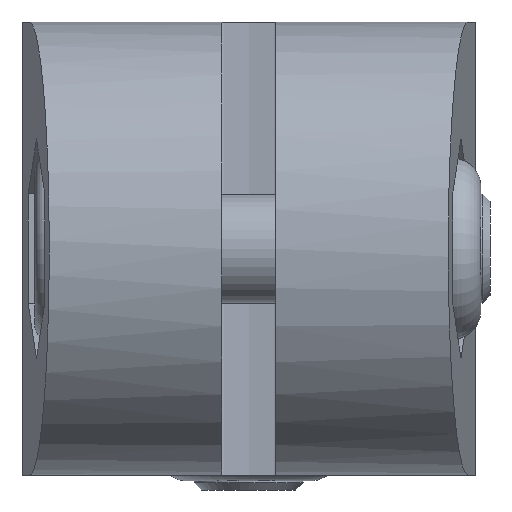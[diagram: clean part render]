
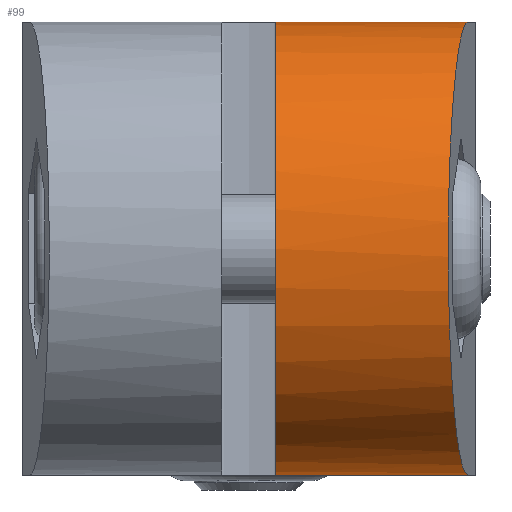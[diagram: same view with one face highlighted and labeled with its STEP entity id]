
A CAD part, left-side view. The second image highlights one B-rep face of the part: STEP entity #99.
In plain terms, the highlighted cylindrical face has radius 12.5 mm (diameter 25 mm), a partial arc.
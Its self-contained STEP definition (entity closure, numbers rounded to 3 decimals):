
#99 = ADVANCED_FACE( '', ( #246 ), #247, .T. );
#246 = FACE_OUTER_BOUND( '', #516, .T. );
#247 = CYLINDRICAL_SURFACE( '', #517, 12.5 );
#516 = EDGE_LOOP( '', ( #921, #922, #923, #924 ) );
#517 = AXIS2_PLACEMENT_3D( '', #925, #926, #927 );
#921 = ORIENTED_EDGE( '', *, *, #1673, .F. );
#922 = ORIENTED_EDGE( '', *, *, #1674, .F. );
#923 = ORIENTED_EDGE( '', *, *, #1675, .F. );
#924 = ORIENTED_EDGE( '', *, *, #1676, .T. );
#925 = CARTESIAN_POINT( '', ( -9.5, 12.5, 0. ) );
#926 = DIRECTION( '', ( 0., 1., 0. ) );
#927 = DIRECTION( '', ( 0., 0., -1. ) );
#1673 = EDGE_CURVE( '', #1992, #1993, #1994, .F. );
#1674 = EDGE_CURVE( '', #1995, #1992, #1996, .T. );
#1675 = EDGE_CURVE( '', #1997, #1995, #1998, .F. );
#1676 = EDGE_CURVE( '', #1997, #1993, #1999, .T. );
#1992 = VERTEX_POINT( '', #2499 );
#1993 = VERTEX_POINT( '', #2500 );
#1994 = ELLIPSE( '', #2501, 12.548, 12.5 );
#1995 = VERTEX_POINT( '', #2502 );
#1996 = LINE( '', #2503, #2504 );
#1997 = VERTEX_POINT( '', #2505 );
#1998 = CIRCLE( '', #2506, 12.5 );
#1999 = LINE( '', #2507, #2508 );
#2499 = CARTESIAN_POINT( '', ( -9.5, -12.094, 12.5 ) );
#2500 = CARTESIAN_POINT( '', ( -9.5, -12.094, -12.5 ) );
#2501 = AXIS2_PLACEMENT_3D( '', #3001, #3002, #3003 );
#2502 = CARTESIAN_POINT( '', ( -9.5, -1.5, 12.5 ) );
#2503 = CARTESIAN_POINT( '', ( -9.5, 12.5, 12.5 ) );
#2504 = VECTOR( '', #3004, 1000. );
#2505 = CARTESIAN_POINT( '', ( -9.5, -1.5, -12.5 ) );
#2506 = AXIS2_PLACEMENT_3D( '', #3005, #3006, #3007 );
#2507 = CARTESIAN_POINT( '', ( -9.5, 12.5, -12.5 ) );
#2508 = VECTOR( '', #3008, 1000. );
#3001 = CARTESIAN_POINT( '', ( -9.5, -12.094, 0. ) );
#3002 = DIRECTION( '', ( 0.087, 0.996, 0. ) );
#3003 = DIRECTION( '', ( 0.996, -0.087, 0. ) );
#3004 = DIRECTION( '', ( 0., -1., 0. ) );
#3005 = CARTESIAN_POINT( '', ( -9.5, -1.5, 0. ) );
#3006 = DIRECTION( '', ( 0., -1., 0. ) );
#3007 = DIRECTION( '', ( 1., 0., 0. ) );
#3008 = DIRECTION( '', ( 0., -1., 0. ) );
